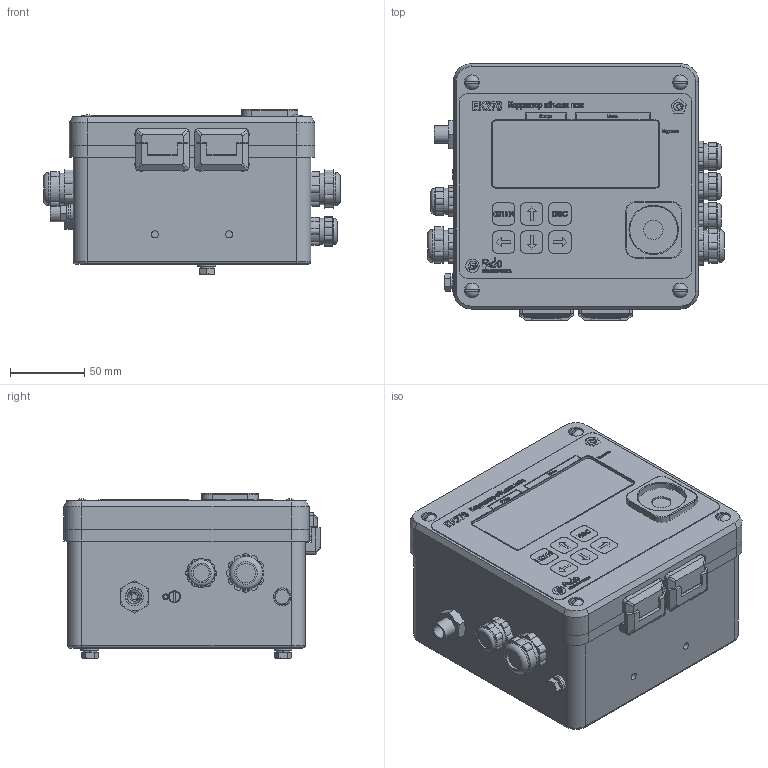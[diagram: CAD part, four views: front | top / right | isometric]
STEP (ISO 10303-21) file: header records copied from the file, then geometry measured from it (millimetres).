
FILE_DESCRIPTION(('STEP AP203'), '1');
FILE_NAME('EK270', '2023-09-08T05:55:53', ('Ìèøèí Ñ.À.'), ('ÎÎÎ "ÝËÜÑÒÅÐ Ãàçýëåêòðîíèêà"'), 'C3D Converter', 'C3D Toolkit', '');
FILE_SCHEMA(('CONFIG_CONTROL_DESIGN'));
Length unit declared in the file: millimetre
Products named in the file (1): 9
Bounding box: 199.78 x 172.5 x 111 mm (x, y, z)
Volume: 2566119.4 mm3; surface area: 286777.2 mm2
Topology: 54 solids, 65 shells, 3791 faces, 10367 edges, 6832 vertices
Faces by surface type: plane 2891, cylinder 491, extrusion 320, cone 43, torus 41, sphere 5
Full cylindrical faces by diameter (mm): 2 x1, 3.5 x2, 4 x12, 4.249 x1, 4.3 x1, 4.8 x2, 5 x6, 5.5 x4, 6 x18, 6.4 x4, 6.5 x12, 7 x10, 8 x1, 9 x8, 10 x12, 10.5 x1, 11 x4, 12 x9, 12.3 x1, 12.87 x2, 13 x2, 13.2 x4, 13.86 x2, 15 x3, 16.38 x2, 17.6 x8, 21.06 x2, 22.23 x2, 25 x2, 25.5 x2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
Entity records: 165572 total; most frequent: CARTESIAN_POINT 40078, ORIENTED_EDGE 20277, DIRECTION 17678, EDGE_CURVE 10170, VECTOR 8620, LINE 8300, VERTEX_POINT 6819, AXIS2_PLACEMENT_3D 4529
